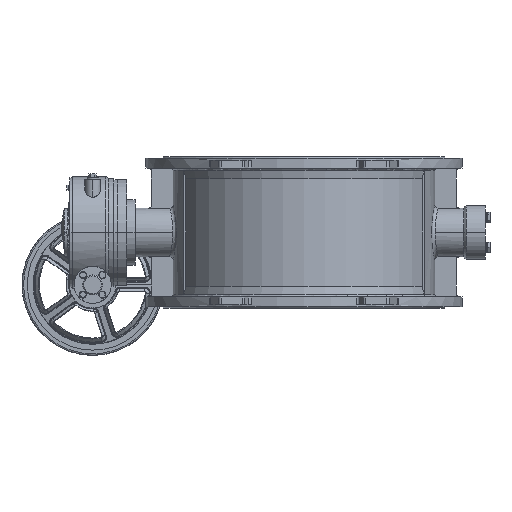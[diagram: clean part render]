
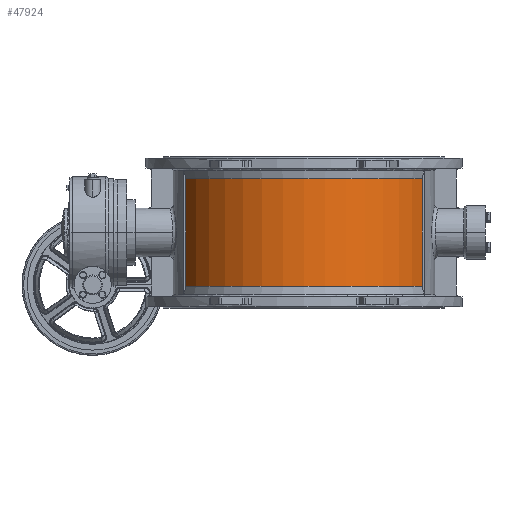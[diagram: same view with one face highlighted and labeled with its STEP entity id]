
A CAD part, front view. The second image highlights one B-rep face of the part: STEP entity #47924.
In plain terms, the highlighted cylindrical face has radius 365 mm (diameter 730 mm), a partial arc.
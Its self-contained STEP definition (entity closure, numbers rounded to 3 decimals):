
#15431 = CARTESIAN_POINT ( 'NONE',  ( -334.419, -146.25, 152.5 ) ) ;
#15552 = LINE ( 'NONE', #15565, #15595 ) ;
#15565 = CARTESIAN_POINT ( 'NONE',  ( -334.419, -146.25, 0. ) ) ;
#15591 = CARTESIAN_POINT ( 'NONE',  ( -334.419, -146.25, -152.5 ) ) ;
#15594 = DIRECTION ( 'NONE',  ( 0., 0., 1. ) ) ;
#15595 = VECTOR ( 'NONE', #15594, 1000. ) ;
#16211 = CIRCLE ( 'NONE', #16223, 365. ) ;
#16223 = AXIS2_PLACEMENT_3D ( 'NONE', #16261, #16260, #16259 ) ;
#16259 = DIRECTION ( 'NONE',  ( 1., 0., 0. ) ) ;
#16260 = DIRECTION ( 'NONE',  ( 0., 0., 1. ) ) ;
#16261 = CARTESIAN_POINT ( 'NONE',  ( 0., 0., 152.5 ) ) ;
#16262 = CARTESIAN_POINT ( 'NONE',  ( 334.419, -146.25, 152.5 ) ) ;
#16341 = CIRCLE ( 'NONE', #16382, 365. ) ;
#16346 = DIRECTION ( 'NONE',  ( 0., 0., -1. ) ) ;
#16347 = VECTOR ( 'NONE', #16346, 1000. ) ;
#16348 = CARTESIAN_POINT ( 'NONE',  ( 334.419, -146.25, 0. ) ) ;
#16349 = LINE ( 'NONE', #16348, #16347 ) ;
#16350 = CARTESIAN_POINT ( 'NONE',  ( 334.419, -146.25, -152.5 ) ) ;
#16351 = DIRECTION ( 'NONE',  ( 1., 0., 0. ) ) ;
#16352 = DIRECTION ( 'NONE',  ( 0., 0., 1. ) ) ;
#16353 = CARTESIAN_POINT ( 'NONE',  ( 0., 0., 0. ) ) ;
#16354 = AXIS2_PLACEMENT_3D ( 'NONE', #16353, #16352, #16351 ) ;
#16355 = CYLINDRICAL_SURFACE ( 'NONE', #16354, 365. ) ;
#16357 = FACE_OUTER_BOUND ( 'NONE', #47937, .T. ) ;
#16373 = DIRECTION ( 'NONE',  ( 1., 0., 0. ) ) ;
#16374 = DIRECTION ( 'NONE',  ( 0., 0., 1. ) ) ;
#16375 = CARTESIAN_POINT ( 'NONE',  ( 0., 0., -152.5 ) ) ;
#16382 = AXIS2_PLACEMENT_3D ( 'NONE', #16375, #16374, #16373 ) ;
#47470 = VERTEX_POINT ( 'NONE', #15431 ) ;
#47496 = EDGE_CURVE ( 'NONE', #47508, #47470, #15552, .T. ) ;
#47508 = VERTEX_POINT ( 'NONE', #15591 ) ;
#47883 = ORIENTED_EDGE ( 'NONE', *, *, #47496, .F. ) ;
#47887 = EDGE_CURVE ( 'NONE', #47470, #47889, #16211, .T. ) ;
#47888 = ORIENTED_EDGE ( 'NONE', *, *, #47927, .F. ) ;
#47889 = VERTEX_POINT ( 'NONE', #16262 ) ;
#47923 = ORIENTED_EDGE ( 'NONE', *, *, #47934, .T. ) ;
#47924 = ADVANCED_FACE ( 'NONE', ( #16357 ), #16355, .T. ) ;
#47926 = VERTEX_POINT ( 'NONE', #16350 ) ;
#47927 = EDGE_CURVE ( 'NONE', #47889, #47926, #16349, .T. ) ;
#47929 = ORIENTED_EDGE ( 'NONE', *, *, #47887, .F. ) ;
#47934 = EDGE_CURVE ( 'NONE', #47508, #47926, #16341, .T. ) ;
#47937 = EDGE_LOOP ( 'NONE', ( #47883, #47923, #47888, #47929 ) ) ;
